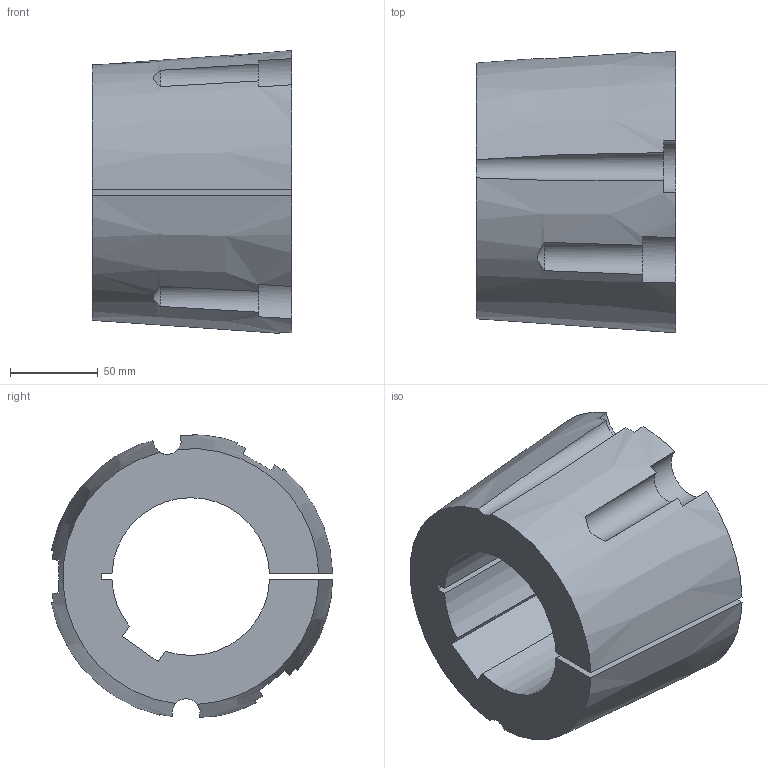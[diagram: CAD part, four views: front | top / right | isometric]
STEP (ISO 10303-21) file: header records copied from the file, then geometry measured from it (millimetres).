
FILE_DESCRIPTION( ( 'STEP AP203' ), '1' );
FILE_NAME( 'D:/export/antriebselemente/spannbuchsen_und_spannsaetze/taper-spannbuchsen_1008_bis_5050/taper-spannbuchsen_62251590Isometric_256.stp', '2018-12-11T11:11:36', ( '' ), ( '' ), ' ', 'PARTsolutions', ' ' );
FILE_SCHEMA( ( 'CONFIG_CONTROL_DESIGN' ) );
Length unit declared in the file: millimetre
Products named in the file (1): _taper-spannbuchsen_62251590
Bounding box: 114 x 160.6 x 161.35 mm (x, y, z)
Volume: 1298907.2 mm3; surface area: 124578.2 mm2
Topology: 1 solids, 1 shells, 34 faces, 96 edges, 64 vertices
Faces by surface type: plane 15, cylinder 13, cone 6
Entity records: 1314 total; most frequent: CARTESIAN_POINT 390, ORIENTED_EDGE 192, DIRECTION 186, EDGE_CURVE 96, AXIS2_PLACEMENT_3D 80, VERTEX_POINT 64, CIRCLE 45, ADVANCED_FACE 34
